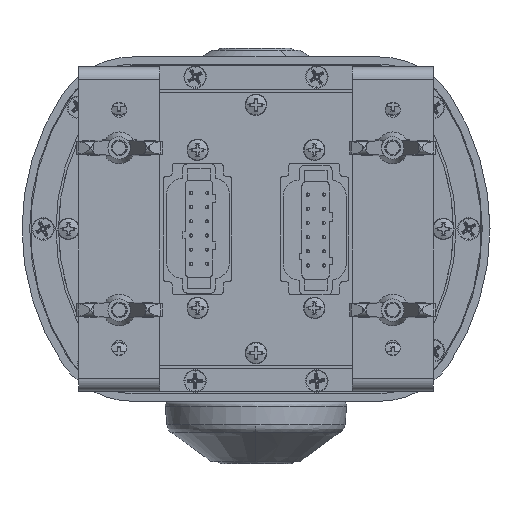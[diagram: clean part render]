
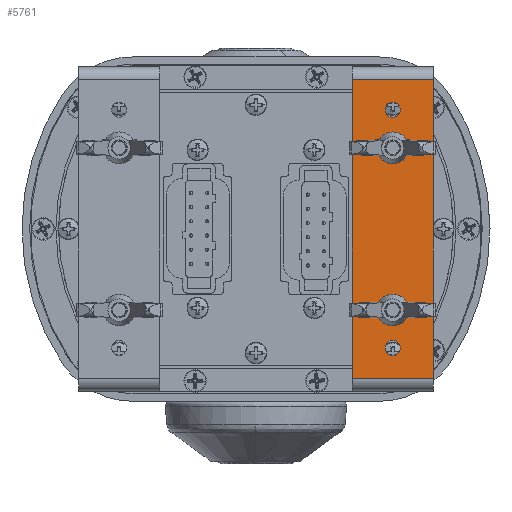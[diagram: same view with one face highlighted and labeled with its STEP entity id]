
A CAD part, front view. The second image highlights one B-rep face of the part: STEP entity #5761.
In plain terms, the highlighted free-form (B-spline) face has degree [3, 3] with [4, 4] control points.
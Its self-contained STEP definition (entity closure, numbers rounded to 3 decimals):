
#4808=DIRECTION('',(0.,0.,1.));
#4809=VECTOR('',#4808,93.663);
#4810=CARTESIAN_POINT('',(76.638,-111.231,-61.892));
#4811=LINE('',#4810,#4809);
#4856=DIRECTION('',(-1.,0.,0.));
#4857=VECTOR('',#4856,25.4);
#4858=CARTESIAN_POINT('',(76.638,-111.231,-61.892));
#4859=LINE('',#4858,#4857);
#4860=DIRECTION('',(0.,0.,1.));
#4861=VECTOR('',#4860,93.663);
#4862=CARTESIAN_POINT('',(51.238,-111.231,-61.892));
#4863=LINE('',#4862,#4861);
#4864=DIRECTION('',(1.,0.,0.));
#4865=VECTOR('',#4864,25.4);
#4866=CARTESIAN_POINT('',(51.238,-111.231,31.77));
#4867=LINE('',#4866,#4865);
#4868=CARTESIAN_POINT('',(63.938,-111.231,22.277));
#4869=DIRECTION('',(0.,-1.,0.));
#4870=DIRECTION('',(1.,0.,0.));
#4871=AXIS2_PLACEMENT_3D('',#4868,#4869,#4870);
#4873=CARTESIAN_POINT('',(63.938,-111.231,22.277));
#4874=DIRECTION('',(0.,-1.,0.));
#4875=DIRECTION('',(-1.,0.,0.));
#4876=AXIS2_PLACEMENT_3D('',#4873,#4874,#4875);
#4878=CARTESIAN_POINT('',(63.938,-111.231,10.339));
#4879=DIRECTION('',(0.,-1.,0.));
#4880=DIRECTION('',(1.,0.,0.));
#4881=AXIS2_PLACEMENT_3D('',#4878,#4879,#4880);
#4883=CARTESIAN_POINT('',(63.938,-111.231,10.339));
#4884=DIRECTION('',(0.,-1.,0.));
#4885=DIRECTION('',(-1.,0.,0.));
#4886=AXIS2_PLACEMENT_3D('',#4883,#4884,#4885);
#4888=CARTESIAN_POINT('',(63.938,-111.231,-40.461));
#4889=DIRECTION('',(0.,-1.,0.));
#4890=DIRECTION('',(1.,0.,0.));
#4891=AXIS2_PLACEMENT_3D('',#4888,#4889,#4890);
#4893=CARTESIAN_POINT('',(63.938,-111.231,-40.461));
#4894=DIRECTION('',(0.,-1.,0.));
#4895=DIRECTION('',(-1.,0.,0.));
#4896=AXIS2_PLACEMENT_3D('',#4893,#4894,#4895);
#4898=CARTESIAN_POINT('',(63.938,-111.231,-52.399));
#4899=DIRECTION('',(0.,-1.,0.));
#4900=DIRECTION('',(1.,0.,0.));
#4901=AXIS2_PLACEMENT_3D('',#4898,#4899,#4900);
#4903=CARTESIAN_POINT('',(63.938,-111.231,-52.399));
#4904=DIRECTION('',(0.,-1.,0.));
#4905=DIRECTION('',(-1.,0.,0.));
#4906=AXIS2_PLACEMENT_3D('',#4903,#4904,#4905);
#5396=CARTESIAN_POINT('',(66.319,-111.231,22.277));
#5397=VERTEX_POINT('',#5396);
#5398=CARTESIAN_POINT('',(61.557,-111.231,22.277));
#5399=VERTEX_POINT('',#5398);
#5420=CARTESIAN_POINT('',(76.638,-111.231,-61.892));
#5421=CARTESIAN_POINT('',(76.638,-111.231,31.77));
#5422=VERTEX_POINT('',#5420);
#5423=VERTEX_POINT('',#5421);
#5440=CARTESIAN_POINT('',(51.238,-111.231,-61.892));
#5441=VERTEX_POINT('',#5440);
#5442=CARTESIAN_POINT('',(51.238,-111.231,31.77));
#5443=VERTEX_POINT('',#5442);
#5444=CARTESIAN_POINT('',(66.319,-111.231,10.339));
#5445=CARTESIAN_POINT('',(61.557,-111.231,10.339));
#5446=VERTEX_POINT('',#5444);
#5447=VERTEX_POINT('',#5445);
#5448=CARTESIAN_POINT('',(66.319,-111.231,-40.461));
#5449=CARTESIAN_POINT('',(61.557,-111.231,-40.461));
#5450=VERTEX_POINT('',#5448);
#5451=VERTEX_POINT('',#5449);
#5452=CARTESIAN_POINT('',(66.319,-111.231,-52.399));
#5453=CARTESIAN_POINT('',(61.557,-111.231,-52.399));
#5454=VERTEX_POINT('',#5452);
#5455=VERTEX_POINT('',#5453);
#5712=CARTESIAN_POINT('',(77.146,-111.231,-63.765));
#5713=CARTESIAN_POINT('',(77.146,-111.231,-31.296));
#5714=CARTESIAN_POINT('',(77.146,-111.231,1.174));
#5715=CARTESIAN_POINT('',(77.146,-111.231,33.644));
#5716=CARTESIAN_POINT('',(68.341,-111.231,-63.765));
#5717=CARTESIAN_POINT('',(68.341,-111.231,-31.296));
#5718=CARTESIAN_POINT('',(68.341,-111.231,1.174));
#5719=CARTESIAN_POINT('',(68.341,-111.231,33.644));
#5720=CARTESIAN_POINT('',(59.536,-111.231,-63.765));
#5721=CARTESIAN_POINT('',(59.536,-111.231,-31.296));
#5722=CARTESIAN_POINT('',(59.536,-111.231,1.174));
#5723=CARTESIAN_POINT('',(59.536,-111.231,33.644));
#5724=CARTESIAN_POINT('',(50.73,-111.231,-63.765));
#5725=CARTESIAN_POINT('',(50.73,-111.231,-31.296));
#5726=CARTESIAN_POINT('',(50.73,-111.231,1.174));
#5727=CARTESIAN_POINT('',(50.73,-111.231,33.644));
#5728=B_SPLINE_SURFACE_WITH_KNOTS('',3,3,((#5712,#5713,#5714,#5715),(#5716,
#5717,#5718,#5719),(#5720,#5721,#5722,#5723),(#5724,#5725,#5726,#5727)),
.UNSPECIFIED.,.F.,.F.,.F.,(4,4),(4,4),(-25.908,0.508),(-1.08,96.33),
.UNSPECIFIED.);
#5730=ORIENTED_EDGE('',*,*,#5729,.T.);
#5732=ORIENTED_EDGE('',*,*,#5731,.T.);
#5734=ORIENTED_EDGE('',*,*,#5733,.T.);
#5735=ORIENTED_EDGE('',*,*,#5686,.F.);
#5736=EDGE_LOOP('',(#5730,#5732,#5734,#5735));
#5737=FACE_OUTER_BOUND('',#5736,.F.);
#5739=ORIENTED_EDGE('',*,*,#5738,.T.);
#5740=ORIENTED_EDGE('',*,*,#5611,.T.);
#5741=EDGE_LOOP('',(#5739,#5740));
#5742=FACE_BOUND('',#5741,.F.);
#5744=ORIENTED_EDGE('',*,*,#5743,.T.);
#5746=ORIENTED_EDGE('',*,*,#5745,.T.);
#5747=EDGE_LOOP('',(#5744,#5746));
#5748=FACE_BOUND('',#5747,.F.);
#5750=ORIENTED_EDGE('',*,*,#5749,.T.);
#5752=ORIENTED_EDGE('',*,*,#5751,.T.);
#5753=EDGE_LOOP('',(#5750,#5752));
#5754=FACE_BOUND('',#5753,.F.);
#5756=ORIENTED_EDGE('',*,*,#5755,.T.);
#5758=ORIENTED_EDGE('',*,*,#5757,.T.);
#5759=EDGE_LOOP('',(#5756,#5758));
#5760=FACE_BOUND('',#5759,.F.);
#5761=ADVANCED_FACE('',(#5737,#5742,#5748,#5754,#5760),#5728,.F.);
#4872=CIRCLE('',#4871,2.381);
#4877=CIRCLE('',#4876,2.381);
#4882=CIRCLE('',#4881,2.381);
#4887=CIRCLE('',#4886,2.381);
#4892=CIRCLE('',#4891,2.381);
#4897=CIRCLE('',#4896,2.381);
#4902=CIRCLE('',#4901,2.381);
#4907=CIRCLE('',#4906,2.381);
#5611=EDGE_CURVE('',#5399,#5397,#4877,.T.);
#5686=EDGE_CURVE('',#5422,#5423,#4811,.T.);
#5729=EDGE_CURVE('',#5422,#5441,#4859,.T.);
#5731=EDGE_CURVE('',#5441,#5443,#4863,.T.);
#5733=EDGE_CURVE('',#5443,#5423,#4867,.T.);
#5738=EDGE_CURVE('',#5397,#5399,#4872,.T.);
#5743=EDGE_CURVE('',#5446,#5447,#4882,.T.);
#5745=EDGE_CURVE('',#5447,#5446,#4887,.T.);
#5749=EDGE_CURVE('',#5450,#5451,#4892,.T.);
#5751=EDGE_CURVE('',#5451,#5450,#4897,.T.);
#5755=EDGE_CURVE('',#5454,#5455,#4902,.T.);
#5757=EDGE_CURVE('',#5455,#5454,#4907,.T.);
